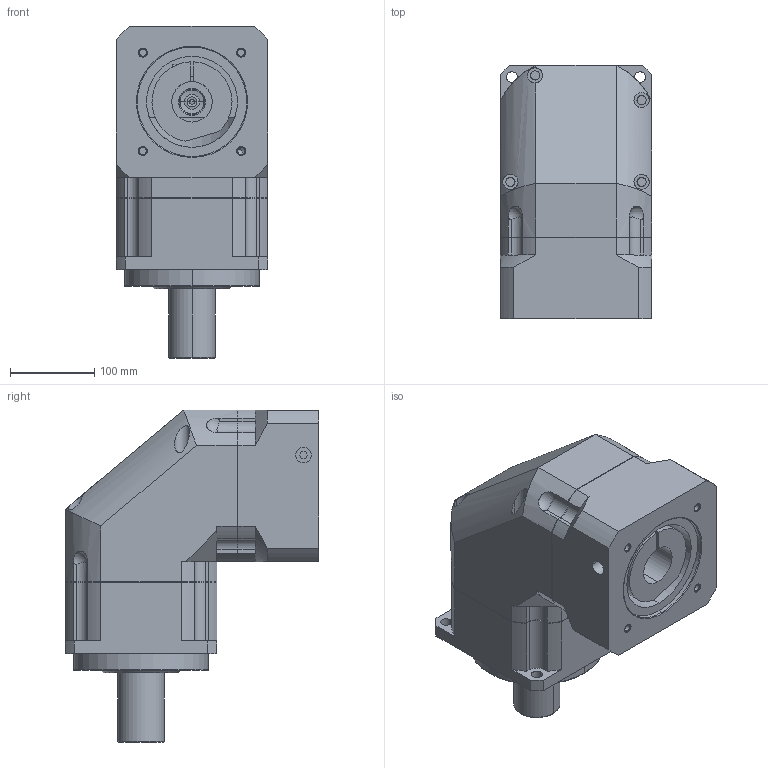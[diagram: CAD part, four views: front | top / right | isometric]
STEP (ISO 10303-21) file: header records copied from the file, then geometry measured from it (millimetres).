
FILE_DESCRIPTION((''),'2;1');
FILE_NAME('ABR1801-P4060103_ASM','2006-03-16T',('D00036'),(''),'PRO/ENGINEER BY PARAMETRIC TECHNOLOGY CORPORATION, 2001280','PRO/ENGINEER BY PARAMETRIC TECHNOLOGY CORPORATION, 2001280','');
FILE_SCHEMA(('CONFIG_CONTROL_DESIGN'));
Length unit declared in the file: millimetre
Products named in the file (4): AB1801; PD060001; P4060103; ABR1801-P4060103_ASM
Assembly tree (3 placements, depth 2):
  ABR1801-P4060103_ASM
    AB1801
    PD060001
    P4060103
Bounding box: 180 x 301 x 394 mm (x, y, z)
Volume: 8550861 mm3; surface area: 619366.1 mm2
Topology: 4 solids, 15 shells, 433 faces, 1043 edges, 643 vertices
Faces by surface type: cylinder 165, plane 156, cone 88, torus 20, sphere 4
Entity records: 13151 total; most frequent: CARTESIAN_POINT 2737, DIRECTION 2318, ORIENTED_EDGE 2010, EDGE_CURVE 1029, AXIS2_PLACEMENT_3D 919, VERTEX_POINT 643, EDGE_LOOP 494, VECTOR 480
